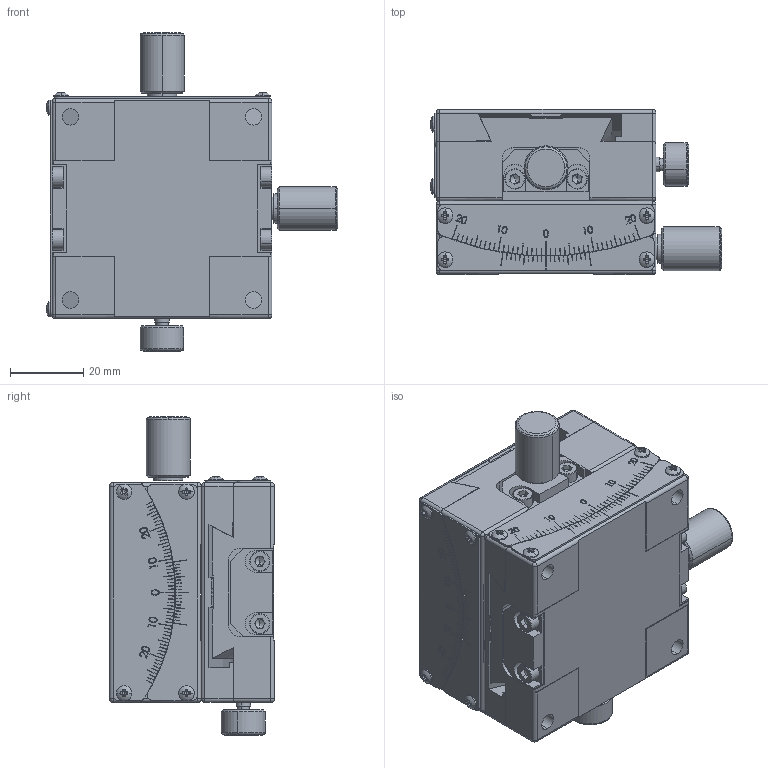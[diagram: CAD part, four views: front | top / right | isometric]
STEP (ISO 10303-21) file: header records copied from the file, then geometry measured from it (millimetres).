
FILE_DESCRIPTION (( 'STEP AP203' ), '1' );
FILE_NAME ('MYG6-35CS(«¬¿ý).STEP', '2013-10-15T08:04:52', ( '' ), ( '' ), 'SwSTEP 2.0', 'SolidWorks 2013', '' );
FILE_SCHEMA (( 'CONFIG_CONTROL_DESIGN' ));
Length unit declared in the file: millimetre
Products named in the file (7): Group2^MXG6-60CS-(型錄); MXG6-60CS-(型錄); Group1^MXG6-35CS-(型錄); Group2^MXG6-35CS-(型錄); MXG6-35CS-(型錄); MYG6-35CS(型錄); Group1^MXG6-60CS-(型錄)
Assembly tree (6 placements, depth 3):
  MYG6-35CS(型錄)
    MXG6-60CS-(型錄)
      Group1^MXG6-60CS-(型錄)
      Group2^MXG6-60CS-(型錄)
    MXG6-35CS-(型錄)
      Group1^MXG6-35CS-(型錄)
      Group2^MXG6-35CS-(型錄)
Bounding box: 79.63 x 45 x 87 mm (x, y, z)
Volume: 157309 mm3; surface area: 54109.6 mm2
Topology: 9 solids, 9 shells, 2319 faces, 6173 edges, 3966 vertices
Faces by surface type: plane 1487, cylinder 324, bspline 300, cone 146, sphere 32, torus 30
Entity records: 98697 total; most frequent: CARTESIAN_POINT 42499, ORIENTED_EDGE 12178, DIRECTION 10398, EDGE_CURVE 6089, LINE 4006, VECTOR 4006, VERTEX_POINT 3966, AXIS2_PLACEMENT_3D 3196
